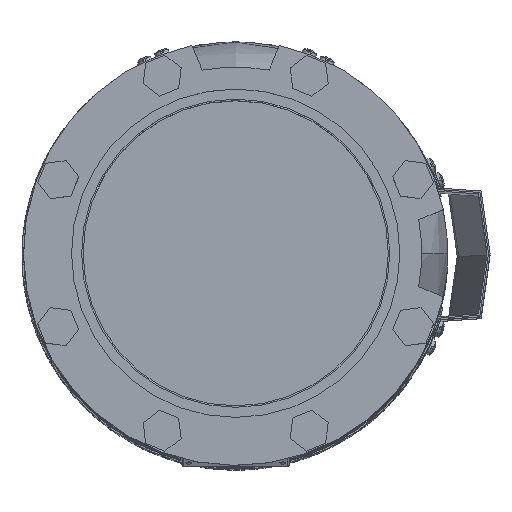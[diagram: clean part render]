
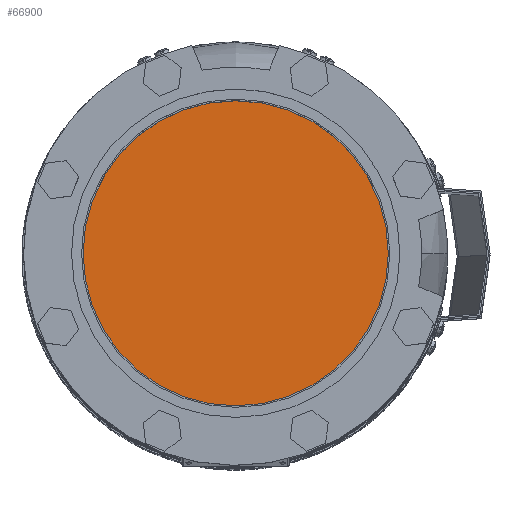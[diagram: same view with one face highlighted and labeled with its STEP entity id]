
A CAD part, top view. The second image highlights one B-rep face of the part: STEP entity #66900.
In plain terms, the highlighted planar face has unit normal (0, 0, 1) as drawn and (0, 1, 0) by its records, which use the part's own axes.
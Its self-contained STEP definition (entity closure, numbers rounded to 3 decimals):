
#592=CIRCLE('',#70506,102.5);
#593=CIRCLE('',#70507,102.5);
#16223=ORIENTED_EDGE('',*,*,#36487,.F.);
#16224=ORIENTED_EDGE('',*,*,#36488,.T.);
#36487=EDGE_CURVE('',#46619,#46620,#592,.T.);
#36488=EDGE_CURVE('',#46619,#46620,#593,.T.);
#46619=VERTEX_POINT('',#96488);
#46620=VERTEX_POINT('',#96489);
#54147=EDGE_LOOP('',(#16223,#16224));
#59010=FACE_BOUND('',#54147,.T.);
#63872=PLANE('',#70505);
#66900=ADVANCED_FACE('',(#59010),#63872,.T.);
#70505=AXIS2_PLACEMENT_3D('',#96486,#77058,#77059);
#70506=AXIS2_PLACEMENT_3D('',#96487,#77060,#77061);
#70507=AXIS2_PLACEMENT_3D('',#96490,#77062,#77063);
#77058=DIRECTION('',(0.,1.,0.));
#77059=DIRECTION('',(-1.,0.,0.));
#77060=DIRECTION('',(0.,-1.,0.));
#77061=DIRECTION('',(-1.,0.,0.));
#77062=DIRECTION('',(0.,1.,0.));
#77063=DIRECTION('',(-1.,0.,0.));
#96486=CARTESIAN_POINT('',(-109.56,216.5,0.));
#96487=CARTESIAN_POINT('',(0.,216.5,0.));
#96488=CARTESIAN_POINT('',(-102.5,216.5,0.));
#96489=CARTESIAN_POINT('',(102.5,216.5,0.));
#96490=CARTESIAN_POINT('',(0.,216.5,0.));
